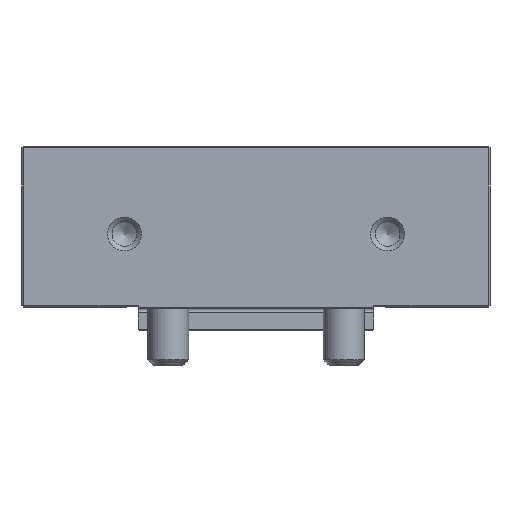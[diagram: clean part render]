
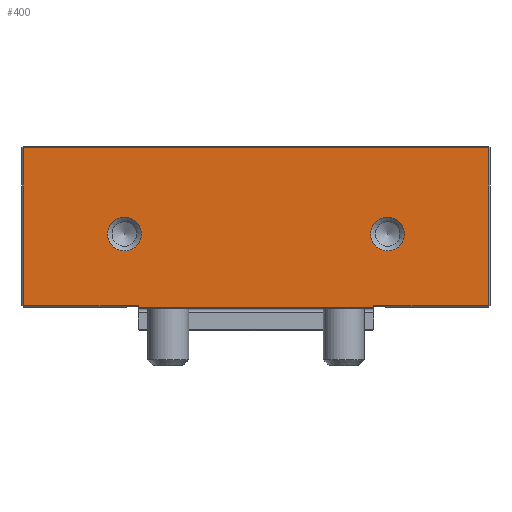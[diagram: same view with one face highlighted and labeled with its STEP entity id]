
A CAD part, front view. The second image highlights one B-rep face of the part: STEP entity #400.
In plain terms, the highlighted planar face has unit normal (0, -1, 0).
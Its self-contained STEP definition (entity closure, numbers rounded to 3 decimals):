
#400=ADVANCED_FACE('',(#3070,#3072,#3074),#3076,.T.);
#3070=FACE_BOUND('',#3071,.T.);
#3071=EDGE_LOOP('',(#5318,#5319,#5320,#5321,#5322,#5323,#5324,#5325));
#3072=FACE_BOUND('',#3073,.T.);
#3073=EDGE_LOOP('',(#5326));
#3074=FACE_BOUND('',#3075,.T.);
#3075=EDGE_LOOP('',(#5327));
#3076=PLANE('',#3077);
#3077=AXIS2_PLACEMENT_3D('',#3078,#3079,#3080);
#3078=CARTESIAN_POINT('',(-80.,-43.,0.));
#3079=DIRECTION('',(0.,-1.,0.));
#3080=DIRECTION('',(1.,0.,0.));
#5318=ORIENTED_EDGE('',*,*,#6304,.F.);
#5319=ORIENTED_EDGE('',*,*,#6305,.T.);
#5320=ORIENTED_EDGE('',*,*,#6284,.T.);
#5321=ORIENTED_EDGE('',*,*,#6270,.T.);
#5322=ORIENTED_EDGE('',*,*,#6288,.T.);
#5323=ORIENTED_EDGE('',*,*,#6306,.T.);
#5324=ORIENTED_EDGE('',*,*,#6307,.T.);
#5325=ORIENTED_EDGE('',*,*,#6259,.F.);
#5326=ORIENTED_EDGE('',*,*,#6308,.T.);
#5327=ORIENTED_EDGE('',*,*,#6309,.T.);
#6259=EDGE_CURVE('',#6819,#6821,#6822,.T.);
#6270=EDGE_CURVE('',#6840,#6841,#6842,.F.);
#6284=EDGE_CURVE('',#6846,#6840,#6867,.F.);
#6288=EDGE_CURVE('',#6841,#6871,#6874,.F.);
#6304=EDGE_CURVE('',#6901,#6819,#6902,.T.);
#6305=EDGE_CURVE('',#6901,#6846,#6903,.F.);
#6306=EDGE_CURVE('',#6871,#6904,#6905,.F.);
#6307=EDGE_CURVE('',#6904,#6821,#6906,.T.);
#6308=EDGE_CURVE('',#6907,#6907,#6908,.F.);
#6309=EDGE_CURVE('',#6909,#6909,#6910,.F.);
#6819=VERTEX_POINT('',#8090);
#6821=VERTEX_POINT('',#8094);
#6822=LINE('',#8095,#8096);
#6840=VERTEX_POINT('',#8138);
#6841=VERTEX_POINT('',#8139);
#6842=LINE('',#8140,#8141);
#6846=VERTEX_POINT('',#8150);
#6867=LINE('',#8195,#8196);
#6871=VERTEX_POINT('',#8206);
#6874=LINE('',#8211,#8212);
#6901=VERTEX_POINT('',#8272);
#6902=LINE('',#8273,#8274);
#6903=LINE('',#8276,#8277);
#6904=VERTEX_POINT('',#8279);
#6905=LINE('',#8280,#8281);
#6906=LINE('',#8283,#8284);
#6907=VERTEX_POINT('',#8286);
#6908=CIRCLE('',#8287,5.788);
#6909=VERTEX_POINT('',#8291);
#6910=CIRCLE('',#8292,5.788);
#8090=CARTESIAN_POINT('',(-79.5,-43.,62.5));
#8094=CARTESIAN_POINT('',(79.5,-43.,62.5));
#8095=CARTESIAN_POINT('',(-79.5,-43.,62.5));
#8096=VECTOR('',#8097,1.);
#8097=DIRECTION('',(1.,0.,0.));
#8138=CARTESIAN_POINT('',(-40.25,-43.,7.9));
#8139=CARTESIAN_POINT('',(40.25,-43.,7.9));
#8140=CARTESIAN_POINT('',(40.25,-43.,7.9));
#8141=VECTOR('',#8142,1.);
#8142=DIRECTION('',(-1.,0.,0.));
#8150=CARTESIAN_POINT('',(-40.25,-43.,8.5));
#8195=CARTESIAN_POINT('',(-40.25,-43.,7.9));
#8196=VECTOR('',#8197,1.);
#8197=DIRECTION('',(0.,0.,1.));
#8206=CARTESIAN_POINT('',(40.25,-43.,8.5));
#8211=CARTESIAN_POINT('',(40.25,-43.,8.5));
#8212=VECTOR('',#8213,1.);
#8213=DIRECTION('',(0.,0.,-1.));
#8272=CARTESIAN_POINT('',(-79.5,-43.,8.5));
#8273=CARTESIAN_POINT('',(-79.5,-43.,8.5));
#8274=VECTOR('',#8275,1.);
#8275=DIRECTION('',(0.,0.,1.));
#8276=CARTESIAN_POINT('',(-40.25,-43.,8.5));
#8277=VECTOR('',#8278,1.);
#8278=DIRECTION('',(-1.,0.,0.));
#8279=CARTESIAN_POINT('',(79.5,-43.,8.5));
#8280=CARTESIAN_POINT('',(79.5,-43.,8.5));
#8281=VECTOR('',#8282,1.);
#8282=DIRECTION('',(-1.,0.,0.));
#8283=CARTESIAN_POINT('',(79.5,-43.,8.5));
#8284=VECTOR('',#8285,1.);
#8285=DIRECTION('',(0.,0.,1.));
#8286=CARTESIAN_POINT('',(50.788,-43.,33.));
#8287=AXIS2_PLACEMENT_3D('',#8288,#8289,#8290);
#8288=CARTESIAN_POINT('',(45.,-43.,33.));
#8289=DIRECTION('',(0.,-1.,0.));
#8290=DIRECTION('',(1.,0.,0.));
#8291=CARTESIAN_POINT('',(-39.212,-43.,33.));
#8292=AXIS2_PLACEMENT_3D('',#8293,#8294,#8295);
#8293=CARTESIAN_POINT('',(-45.,-43.,33.));
#8294=DIRECTION('',(0.,-1.,0.));
#8295=DIRECTION('',(1.,0.,0.));
